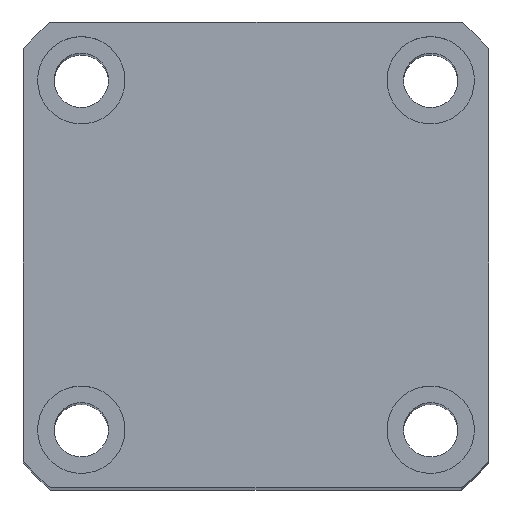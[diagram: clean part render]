
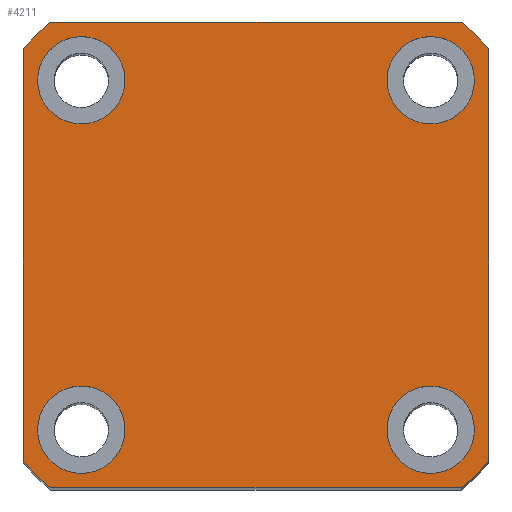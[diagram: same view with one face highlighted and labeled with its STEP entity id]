
A CAD part, top view. The second image highlights one B-rep face of the part: STEP entity #4211.
In plain terms, the highlighted planar face has unit normal (0, 0, 1) as drawn and (1, 0, 0) by its records, which use the part's own axes.
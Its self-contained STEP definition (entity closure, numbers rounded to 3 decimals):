
#65 = CIRCLE ( 'NONE', #2282, 4.5 ) ;
#109 = LINE ( 'NONE', #5682, #6472 ) ;
#124 = VERTEX_POINT ( 'NONE', #1414 ) ;
#203 = DIRECTION ( 'NONE',  ( 0., 0., -1. ) ) ;
#214 = EDGE_CURVE ( 'NONE', #217, #8520, #65, .T. ) ;
#217 = VERTEX_POINT ( 'NONE', #7448 ) ;
#226 = VERTEX_POINT ( 'NONE', #4599 ) ;
#323 = DIRECTION ( 'NONE',  ( 0., 0., -1. ) ) ;
#330 = CARTESIAN_POINT ( 'NONE',  ( 120., 18., -22.5 ) ) ;
#405 = EDGE_CURVE ( 'NONE', #226, #8397, #6424, .T. ) ;
#471 = AXIS2_PLACEMENT_3D ( 'NONE', #9437, #4478, #10256 ) ;
#528 = DIRECTION ( 'NONE',  ( 0., 0., -1. ) ) ;
#573 = DIRECTION ( 'NONE',  ( 0., 0., -1. ) ) ;
#670 = CARTESIAN_POINT ( 'NONE',  ( 120., 24., 21.166 ) ) ;
#739 = CIRCLE ( 'NONE', #5152, 4.5 ) ;
#746 = VERTEX_POINT ( 'NONE', #8572 ) ;
#791 = DIRECTION ( 'NONE',  ( 1., 0., 0. ) ) ;
#832 = AXIS2_PLACEMENT_3D ( 'NONE', #6364, #5545, #573 ) ;
#881 = CARTESIAN_POINT ( 'NONE',  ( 120., -18., -18. ) ) ;
#946 = DIRECTION ( 'NONE',  ( 1., 0., 0. ) ) ;
#983 = DIRECTION ( 'NONE',  ( 0., 0., -1. ) ) ;
#1058 = CARTESIAN_POINT ( 'NONE',  ( 120., -21.166, -24. ) ) ;
#1134 = ORIENTED_EDGE ( 'NONE', *, *, #405, .T. ) ;
#1200 = DIRECTION ( 'NONE',  ( 1., 0., 0. ) ) ;
#1282 = VERTEX_POINT ( 'NONE', #330 ) ;
#1336 = EDGE_LOOP ( 'NONE', ( #5686, #4934, #5158, #3406, #8258, #8996, #9463, #1134 ) ) ;
#1368 = FACE_BOUND ( 'NONE', #2362, .T. ) ;
#1384 = CIRCLE ( 'NONE', #6008, 4.5 ) ;
#1414 = CARTESIAN_POINT ( 'NONE',  ( 120., 21.166, 24. ) ) ;
#1492 = VECTOR ( 'NONE', #3366, 1000. ) ;
#1501 = EDGE_CURVE ( 'NONE', #1768, #3734, #2500, .T. ) ;
#1512 = ORIENTED_EDGE ( 'NONE', *, *, #5906, .F. ) ;
#1603 = EDGE_CURVE ( 'NONE', #2998, #10243, #6679, .T. ) ;
#1619 = FACE_BOUND ( 'NONE', #8635, .T. ) ;
#1754 = LINE ( 'NONE', #4974, #5676 ) ;
#1768 = VERTEX_POINT ( 'NONE', #8639 ) ;
#1885 = CIRCLE ( 'NONE', #4218, 4.5 ) ;
#2064 = DIRECTION ( 'NONE',  ( 1., 0., 0. ) ) ;
#2111 = CARTESIAN_POINT ( 'NONE',  ( 120., -18., -13.5 ) ) ;
#2142 = CIRCLE ( 'NONE', #3838, 32. ) ;
#2194 = VERTEX_POINT ( 'NONE', #10587 ) ;
#2259 = AXIS2_PLACEMENT_3D ( 'NONE', #881, #946, #983 ) ;
#2282 = AXIS2_PLACEMENT_3D ( 'NONE', #7694, #7699, #7795 ) ;
#2362 = EDGE_LOOP ( 'NONE', ( #3714, #3487 ) ) ;
#2399 = VERTEX_POINT ( 'NONE', #10650 ) ;
#2413 = FACE_BOUND ( 'NONE', #6806, .T. ) ;
#2425 = CIRCLE ( 'NONE', #7765, 32. ) ;
#2500 = CIRCLE ( 'NONE', #6342, 32. ) ;
#2609 = VERTEX_POINT ( 'NONE', #670 ) ;
#2611 = DIRECTION ( 'NONE',  ( 1., 0., 0. ) ) ;
#2691 = EDGE_CURVE ( 'NONE', #3734, #2609, #109, .T. ) ;
#2998 = VERTEX_POINT ( 'NONE', #2111 ) ;
#3160 = EDGE_CURVE ( 'NONE', #2609, #124, #2425, .T. ) ;
#3366 = DIRECTION ( 'NONE',  ( 0., -1., 0. ) ) ;
#3406 = ORIENTED_EDGE ( 'NONE', *, *, #3160, .T. ) ;
#3428 = EDGE_CURVE ( 'NONE', #8520, #217, #1885, .T. ) ;
#3487 = ORIENTED_EDGE ( 'NONE', *, *, #3428, .F. ) ;
#3515 = CARTESIAN_POINT ( 'NONE',  ( 120., 0., 0. ) ) ;
#3676 = AXIS2_PLACEMENT_3D ( 'NONE', #7605, #2611, #8421 ) ;
#3714 = ORIENTED_EDGE ( 'NONE', *, *, #214, .F. ) ;
#3734 = VERTEX_POINT ( 'NONE', #6222 ) ;
#3838 = AXIS2_PLACEMENT_3D ( 'NONE', #3515, #9322, #4361 ) ;
#3839 = CIRCLE ( 'NONE', #3676, 4.5 ) ;
#4069 = DIRECTION ( 'NONE',  ( 0., 0., -1. ) ) ;
#4077 = EDGE_CURVE ( 'NONE', #6618, #1282, #4355, .T. ) ;
#4211 = ADVANCED_FACE ( 'NONE', ( #2413, #9927, #1619, #1368, #7731 ), #8825, .T. ) ;
#4218 = AXIS2_PLACEMENT_3D ( 'NONE', #10096, #5154, #203 ) ;
#4355 = CIRCLE ( 'NONE', #471, 4.5 ) ;
#4361 = DIRECTION ( 'NONE',  ( 0., 0., -1. ) ) ;
#4478 = DIRECTION ( 'NONE',  ( 1., 0., 0. ) ) ;
#4599 = CARTESIAN_POINT ( 'NONE',  ( 120., -24., -21.166 ) ) ;
#4764 = ORIENTED_EDGE ( 'NONE', *, *, #1603, .F. ) ;
#4855 = EDGE_CURVE ( 'NONE', #1282, #6618, #5513, .T. ) ;
#4934 = ORIENTED_EDGE ( 'NONE', *, *, #1501, .T. ) ;
#4974 = CARTESIAN_POINT ( 'NONE',  ( 120., -24., 24. ) ) ;
#5086 = AXIS2_PLACEMENT_3D ( 'NONE', #6331, #5480, #4069 ) ;
#5133 = EDGE_LOOP ( 'NONE', ( #6244, #6505 ) ) ;
#5152 = AXIS2_PLACEMENT_3D ( 'NONE', #10217, #5278, #323 ) ;
#5154 = DIRECTION ( 'NONE',  ( 1., 0., 0. ) ) ;
#5158 = ORIENTED_EDGE ( 'NONE', *, *, #2691, .T. ) ;
#5278 = DIRECTION ( 'NONE',  ( 1., 0., 0. ) ) ;
#5480 = DIRECTION ( 'NONE',  ( 1., 0., 0. ) ) ;
#5493 = DIRECTION ( 'NONE',  ( 1., 0., 0. ) ) ;
#5513 = CIRCLE ( 'NONE', #8187, 4.5 ) ;
#5545 = DIRECTION ( 'NONE',  ( 1., 0., 0. ) ) ;
#5676 = VECTOR ( 'NONE', #9055, 1000. ) ;
#5682 = CARTESIAN_POINT ( 'NONE',  ( 120., 24., 24. ) ) ;
#5686 = ORIENTED_EDGE ( 'NONE', *, *, #7571, .T. ) ;
#5757 = CARTESIAN_POINT ( 'NONE',  ( 120., 18., -18. ) ) ;
#5770 = CARTESIAN_POINT ( 'NONE',  ( 120., 24., -24. ) ) ;
#5906 = EDGE_CURVE ( 'NONE', #10243, #2998, #739, .T. ) ;
#6008 = AXIS2_PLACEMENT_3D ( 'NONE', #6180, #1200, #7036 ) ;
#6171 = CARTESIAN_POINT ( 'NONE',  ( 120., 0., 0. ) ) ;
#6180 = CARTESIAN_POINT ( 'NONE',  ( 120., -18., 18. ) ) ;
#6222 = CARTESIAN_POINT ( 'NONE',  ( 120., 24., -21.166 ) ) ;
#6244 = ORIENTED_EDGE ( 'NONE', *, *, #9412, .F. ) ;
#6331 = CARTESIAN_POINT ( 'NONE',  ( 120., 0., 0. ) ) ;
#6342 = AXIS2_PLACEMENT_3D ( 'NONE', #6171, #2064, #10515 ) ;
#6364 = CARTESIAN_POINT ( 'NONE',  ( 120., 0., 0. ) ) ;
#6424 = CIRCLE ( 'NONE', #5086, 32. ) ;
#6472 = VECTOR ( 'NONE', #6529, 1000. ) ;
#6505 = ORIENTED_EDGE ( 'NONE', *, *, #7942, .F. ) ;
#6529 = DIRECTION ( 'NONE',  ( 0., 0., 1. ) ) ;
#6608 = DIRECTION ( 'NONE',  ( 0., 0., -1. ) ) ;
#6618 = VERTEX_POINT ( 'NONE', #10009 ) ;
#6679 = CIRCLE ( 'NONE', #2259, 4.5 ) ;
#6806 = EDGE_LOOP ( 'NONE', ( #1512, #4764 ) ) ;
#7036 = DIRECTION ( 'NONE',  ( 0., 0., -1. ) ) ;
#7448 = CARTESIAN_POINT ( 'NONE',  ( 120., 18., 13.5 ) ) ;
#7479 = DIRECTION ( 'NONE',  ( 0., 1., 0. ) ) ;
#7571 = EDGE_CURVE ( 'NONE', #8397, #1768, #8104, .T. ) ;
#7579 = VERTEX_POINT ( 'NONE', #8296 ) ;
#7605 = CARTESIAN_POINT ( 'NONE',  ( 120., -18., 18. ) ) ;
#7694 = CARTESIAN_POINT ( 'NONE',  ( 120., 18., 18. ) ) ;
#7699 = DIRECTION ( 'NONE',  ( 1., 0., 0. ) ) ;
#7731 = FACE_OUTER_BOUND ( 'NONE', #1336, .T. ) ;
#7765 = AXIS2_PLACEMENT_3D ( 'NONE', #10429, #5493, #528 ) ;
#7795 = DIRECTION ( 'NONE',  ( 0., 0., -1. ) ) ;
#7854 = LINE ( 'NONE', #9970, #1492 ) ;
#7942 = EDGE_CURVE ( 'NONE', #2399, #746, #1384, .T. ) ;
#8104 = LINE ( 'NONE', #5770, #10038 ) ;
#8187 = AXIS2_PLACEMENT_3D ( 'NONE', #5757, #791, #6608 ) ;
#8258 = ORIENTED_EDGE ( 'NONE', *, *, #10168, .T. ) ;
#8296 = CARTESIAN_POINT ( 'NONE',  ( 120., -24., 21.166 ) ) ;
#8397 = VERTEX_POINT ( 'NONE', #1058 ) ;
#8421 = DIRECTION ( 'NONE',  ( 0., 0., -1. ) ) ;
#8520 = VERTEX_POINT ( 'NONE', #10341 ) ;
#8572 = CARTESIAN_POINT ( 'NONE',  ( 120., -18., 13.5 ) ) ;
#8635 = EDGE_LOOP ( 'NONE', ( #8671, #9275 ) ) ;
#8639 = CARTESIAN_POINT ( 'NONE',  ( 120., 21.166, -24. ) ) ;
#8671 = ORIENTED_EDGE ( 'NONE', *, *, #4855, .F. ) ;
#8825 = PLANE ( 'NONE',  #832 ) ;
#8869 = EDGE_CURVE ( 'NONE', #7579, #226, #1754, .T. ) ;
#8996 = ORIENTED_EDGE ( 'NONE', *, *, #10579, .T. ) ;
#9055 = DIRECTION ( 'NONE',  ( 0., 0., -1. ) ) ;
#9205 = CARTESIAN_POINT ( 'NONE',  ( 120., -18., -22.5 ) ) ;
#9275 = ORIENTED_EDGE ( 'NONE', *, *, #4077, .F. ) ;
#9322 = DIRECTION ( 'NONE',  ( 1., 0., 0. ) ) ;
#9412 = EDGE_CURVE ( 'NONE', #746, #2399, #3839, .T. ) ;
#9437 = CARTESIAN_POINT ( 'NONE',  ( 120., 18., -18. ) ) ;
#9463 = ORIENTED_EDGE ( 'NONE', *, *, #8869, .T. ) ;
#9927 = FACE_BOUND ( 'NONE', #5133, .T. ) ;
#9970 = CARTESIAN_POINT ( 'NONE',  ( 120., 24., 24. ) ) ;
#10009 = CARTESIAN_POINT ( 'NONE',  ( 120., 18., -13.5 ) ) ;
#10038 = VECTOR ( 'NONE', #7479, 1000. ) ;
#10096 = CARTESIAN_POINT ( 'NONE',  ( 120., 18., 18. ) ) ;
#10168 = EDGE_CURVE ( 'NONE', #124, #2194, #7854, .T. ) ;
#10217 = CARTESIAN_POINT ( 'NONE',  ( 120., -18., -18. ) ) ;
#10243 = VERTEX_POINT ( 'NONE', #9205 ) ;
#10256 = DIRECTION ( 'NONE',  ( 0., 0., -1. ) ) ;
#10341 = CARTESIAN_POINT ( 'NONE',  ( 120., 18., 22.5 ) ) ;
#10429 = CARTESIAN_POINT ( 'NONE',  ( 120., 0., 0. ) ) ;
#10515 = DIRECTION ( 'NONE',  ( 0., 0., -1. ) ) ;
#10579 = EDGE_CURVE ( 'NONE', #2194, #7579, #2142, .T. ) ;
#10587 = CARTESIAN_POINT ( 'NONE',  ( 120., -21.166, 24. ) ) ;
#10650 = CARTESIAN_POINT ( 'NONE',  ( 120., -18., 22.5 ) ) ;
